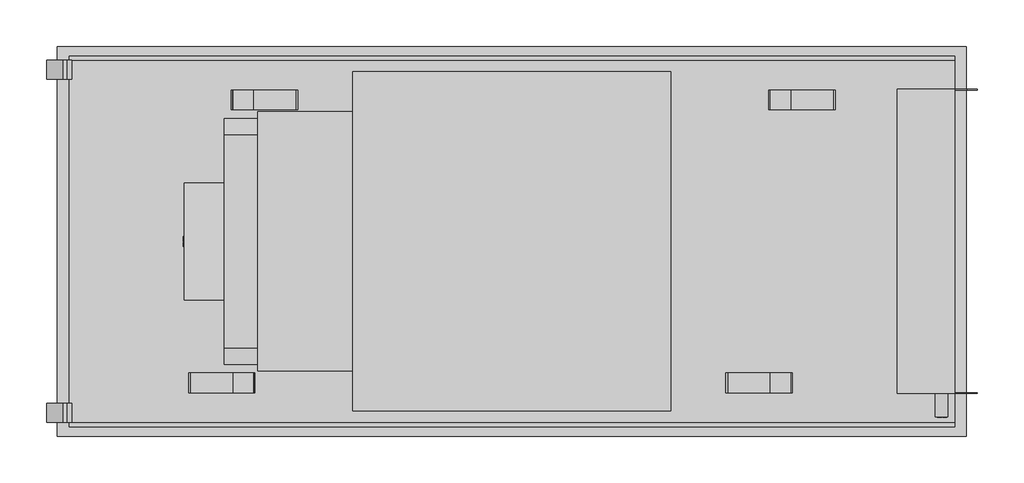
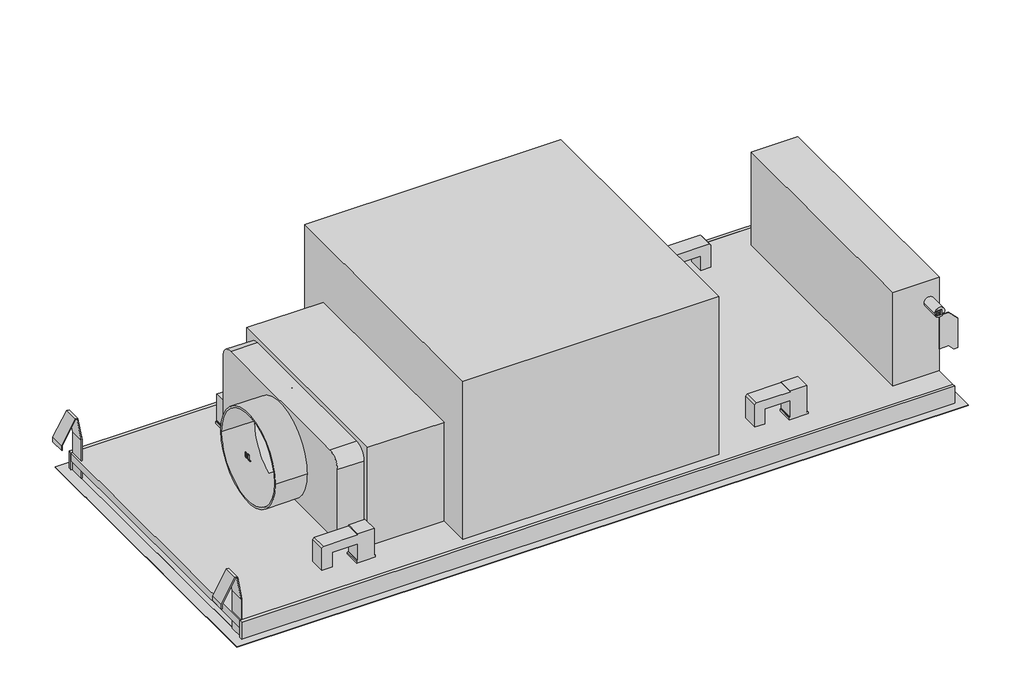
# Not in any storey: 1 proxy.
"""IFC4 building model written with IfcOpenShell, lengths in millimetres."""

from ifc_helpers import new_model, si_unit, origin, place, context, project, spatial, transform, mapped, element, save
from components import specialty_equipment_e451ebec

model = new_model("IFC4")

# Units and contexts
model_context = context("Model", 3, world=origin())
ifc_project = project(units=[si_unit("LENGTHUNIT", "METRE", prefix="MILLI")], contexts=[model_context])

# Site, building
site = spatial("IfcSite", under=ifc_project)
building = spatial("IfcBuilding", under=site)

# Proxy
placement = place(None, origin())
specialty_equipment_shape = specialty_equipment_e451ebec(model_context)
element("IfcBuildingElementProxy", 1, Name="12565890_USA_DAC2247_EDST : 28C2247S_USA_12565890_DAC2247_EDST", ObjectType="12565890_USA_DAC2247_EDST : 28C2247S_USA_12565890_DAC2247_EDST", at=placement, inside=building, context=model_context, shape_type="MappedRepresentation", body=[
    mapped(specialty_equipment_shape, transform((0.0, 0.0, 0.0), x_axis=(1.0, 0.0, 0.0), y_axis=(0.0, 1.0, 0.0), z_axis=(0.0, 0.0, 1.0))),
])

save(model, "model.ifc")
